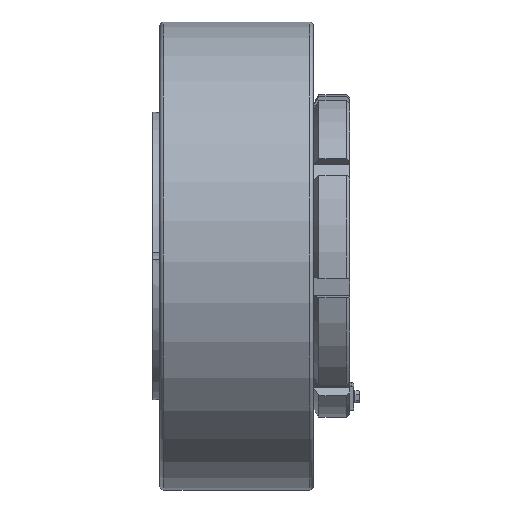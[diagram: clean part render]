
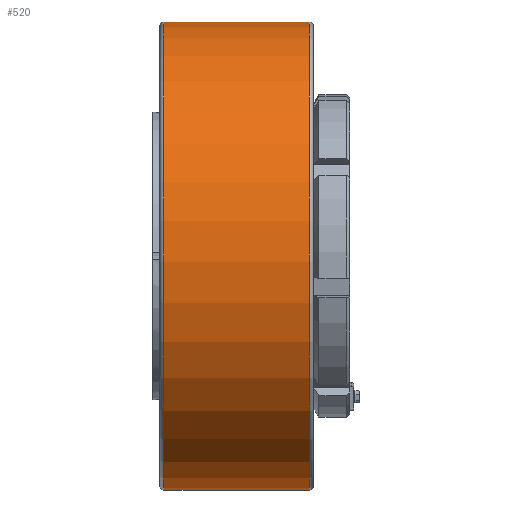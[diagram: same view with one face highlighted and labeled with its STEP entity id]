
A CAD part, front view. The second image highlights one B-rep face of the part: STEP entity #520.
In plain terms, the highlighted cylindrical face has radius 290 mm (diameter 580 mm), a full revolution.
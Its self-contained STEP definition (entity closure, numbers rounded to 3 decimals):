
#520 = ADVANCED_FACE( '', ( #1169, #1170 ), #1171, .T. );
#1169 = FACE_OUTER_BOUND( '', #1942, .T. );
#1170 = FACE_OUTER_BOUND( '', #1943, .T. );
#1171 = CYLINDRICAL_SURFACE( '', #1944, 290. );
#1942 = EDGE_LOOP( '', ( #4076 ) );
#1943 = EDGE_LOOP( '', ( #4077 ) );
#1944 = AXIS2_PLACEMENT_3D( '', #4078, #4079, #4080 );
#4076 = ORIENTED_EDGE( '', *, *, #5532, .T. );
#4077 = ORIENTED_EDGE( '', *, *, #5546, .F. );
#4078 = CARTESIAN_POINT( '', ( 0., 0., 0. ) );
#4079 = DIRECTION( '', ( -1., 0., 0. ) );
#4080 = DIRECTION( '', ( 0., 0., -1. ) );
#5532 = EDGE_CURVE( '', #6788, #6788, #6789, .T. );
#5546 = EDGE_CURVE( '', #6816, #6816, #6817, .T. );
#6788 = VERTEX_POINT( '', #8837 );
#6789 = CIRCLE( '', #8838, 290. );
#6816 = VERTEX_POINT( '', #8865 );
#6817 = CIRCLE( '', #8866, 290. );
#8837 = CARTESIAN_POINT( '', ( -239., 0., -290. ) );
#8838 = AXIS2_PLACEMENT_3D( '', #10392, #10393, #10394 );
#8865 = CARTESIAN_POINT( '', ( -59., 0., -290. ) );
#8866 = AXIS2_PLACEMENT_3D( '', #10434, #10435, #10436 );
#10392 = CARTESIAN_POINT( '', ( -239., 0., 0. ) );
#10393 = DIRECTION( '', ( 1., 0., 0. ) );
#10394 = DIRECTION( '', ( 0., 0., -1. ) );
#10434 = CARTESIAN_POINT( '', ( -59., 0., 0. ) );
#10435 = DIRECTION( '', ( 1., 0., 0. ) );
#10436 = DIRECTION( '', ( 0., 0., -1. ) );
